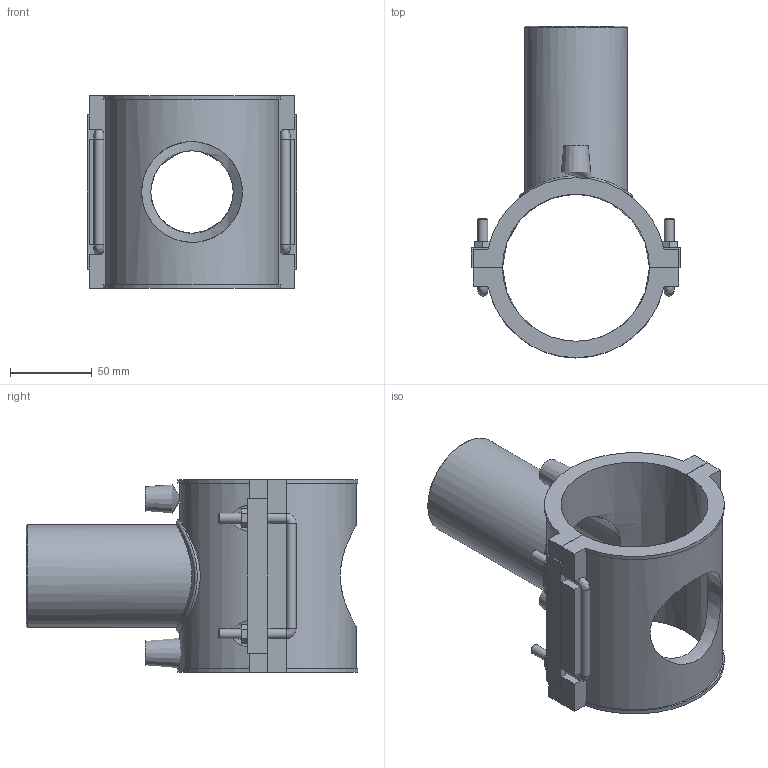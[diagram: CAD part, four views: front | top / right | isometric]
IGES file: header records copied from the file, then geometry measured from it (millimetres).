
Global section: file name: 495804090063.ipt; native system: Autodesk Inventor 2015; preprocessor: unknown; author: KIM; date: 20180426.120832; units: millimetre
Bounding box: 128 x 203.08 x 118 mm (x, y, z)
Volume: 462217.8 mm3; surface area: 130799.8 mm2
Topology: 2 solids, 2 shells, 133 faces, 340 edges, 214 vertices
Faces by surface type: plane 85, cylinder 22, revolution 10, bspline 9, cone 7
Full cylindrical faces by diameter (mm): 4 x2, 6 x10, 63 x1, 69.3 x1
